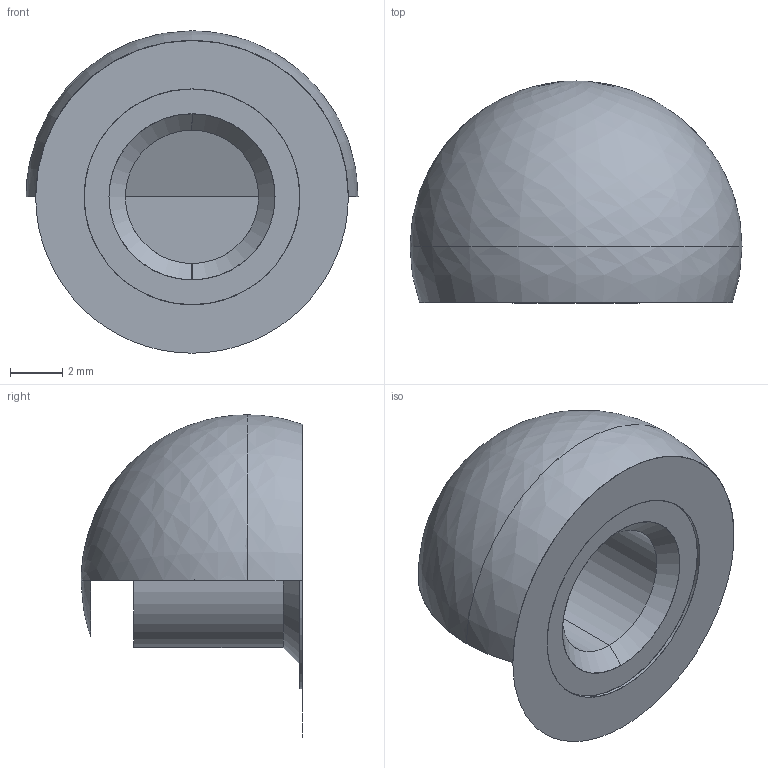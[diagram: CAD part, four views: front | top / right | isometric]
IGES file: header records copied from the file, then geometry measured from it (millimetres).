
Start section: SolidWorks IGES file using analytic representation for surfaces
Global section: file name: D:\Solid_parts\MECHeDESIGN\Bal-Tec\Catalog 105-A\Distribution\IGES\500-TBR-T.IGS; native system: SolidWorks 2005 by SolidWorks Corporation; preprocessor: SolidWorks 2005 by SolidWorks Corporation; author: rvillegas; date: 061205.184259; units: inch
Bounding box: 12.7 x 8.48 x 12.33 mm (x, y, z)
Surface area: 515.6 mm2 (no closed solid volume)
Topology: 0 solids, 0 shells, 11 faces, 192 edges, 191 vertices
Faces by surface type: revolution 8, bspline 3
